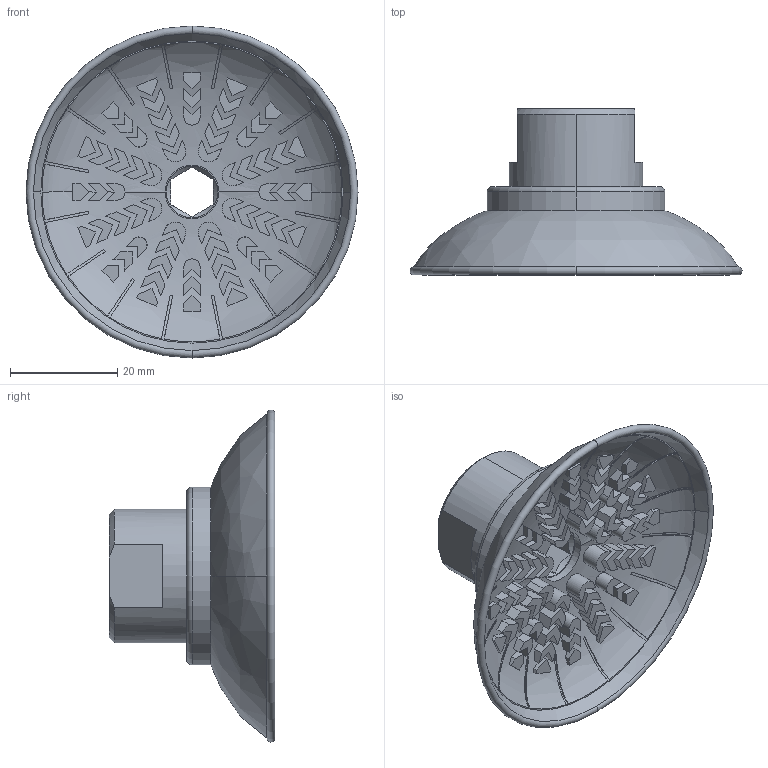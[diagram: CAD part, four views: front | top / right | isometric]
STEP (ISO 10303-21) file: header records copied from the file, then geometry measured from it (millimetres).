
FILE_DESCRIPTION (( 'STEP AP203' ), '1' );
FILE_NAME ('99A_60PU_F38.STEP', '2018-05-28T09:15:24', ( '' ), ( '' ), 'SwSTEP 2.0', 'SolidWorks 2016', '' );
FILE_SCHEMA (( 'CONFIG_CONTROL_DESIGN' ));
Length unit declared in the file: millimetre
Products named in the file (1): 99A_60PU_F38
Bounding box: 62 x 31 x 62 mm (x, y, z)
Volume: 16807.3 mm3; surface area: 13495.8 mm2
Topology: 2 solids, 2 shells, 565 faces, 1477 edges, 979 vertices
Faces by surface type: plane 483, cylinder 47, bspline 22, cone 9, torus 4
Entity records: 21912 total; most frequent: CARTESIAN_POINT 8967, ORIENTED_EDGE 2954, DIRECTION 2129, EDGE_CURVE 1477, VERTEX_POINT 979, VECTOR 851, LINE 851, AXIS2_PLACEMENT_3D 639
